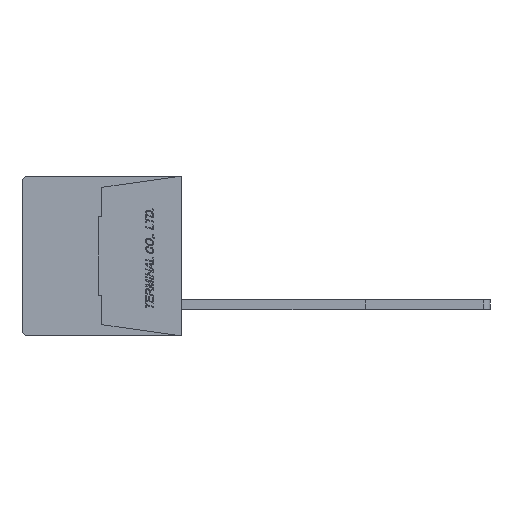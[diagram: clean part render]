
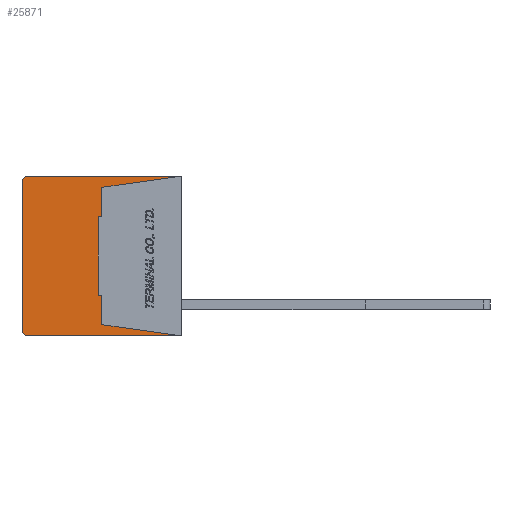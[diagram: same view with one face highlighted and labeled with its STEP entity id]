
A CAD part, left-side view. The second image highlights one B-rep face of the part: STEP entity #25871.
In plain terms, the highlighted planar face has unit normal (-1, 0, 0).
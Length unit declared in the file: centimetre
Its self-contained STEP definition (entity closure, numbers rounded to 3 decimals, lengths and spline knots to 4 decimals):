
#1358=CIRCLE('',#44221,0.05);
#1359=CIRCLE('',#44224,0.05);
#2543=VERTEX_POINT('',#36621);
#2544=VERTEX_POINT('',#36623);
#2545=VERTEX_POINT('',#36627);
#2546=VERTEX_POINT('',#36631);
#2547=VERTEX_POINT('',#36635);
#2548=VERTEX_POINT('',#36639);
#2549=VERTEX_POINT('',#36642);
#2550=VERTEX_POINT('',#36644);
#2551=VERTEX_POINT('',#36646);
#2552=VERTEX_POINT('',#36648);
#2553=VERTEX_POINT('',#36650);
#2554=VERTEX_POINT('',#36652);
#5223=VECTOR('',#30047,1.);
#5227=VECTOR('',#30056,1.);
#5230=VECTOR('',#30064,1.);
#5231=VECTOR('',#30065,1.);
#5232=VECTOR('',#30066,1.);
#5233=VECTOR('',#30067,1.);
#5234=VECTOR('',#30068,1.);
#5235=VECTOR('',#30069,1.);
#5236=VECTOR('',#30070,1.);
#5237=VECTOR('',#30071,1.);
#8261=LINE('',#36622,#5223);
#8265=LINE('',#36632,#5227);
#8268=LINE('',#36640,#5230);
#8269=LINE('',#36641,#5231);
#8270=LINE('',#36643,#5232);
#8271=LINE('',#36645,#5233);
#8272=LINE('',#36647,#5234);
#8273=LINE('',#36649,#5235);
#8274=LINE('',#36651,#5236);
#8275=LINE('',#36653,#5237);
#11727=EDGE_CURVE('',#2544,#2543,#8261,.T.);
#11730=EDGE_CURVE('',#2545,#2543,#1358,.T.);
#11732=EDGE_CURVE('',#2545,#2546,#8265,.T.);
#11734=EDGE_CURVE('',#2547,#2546,#1359,.T.);
#11736=EDGE_CURVE('',#2547,#2548,#8268,.T.);
#11737=EDGE_CURVE('',#2549,#2544,#8269,.T.);
#11738=EDGE_CURVE('',#2548,#2550,#8270,.T.);
#11739=EDGE_CURVE('',#2550,#2551,#8271,.T.);
#11740=EDGE_CURVE('',#2551,#2552,#8272,.T.);
#11741=EDGE_CURVE('',#2552,#2553,#8273,.T.);
#11742=EDGE_CURVE('',#2553,#2554,#8274,.T.);
#11743=EDGE_CURVE('',#2554,#2549,#8275,.T.);
#17079=ORIENTED_EDGE('',*,*,#11737,.T.);
#17080=ORIENTED_EDGE('',*,*,#11727,.T.);
#17081=ORIENTED_EDGE('',*,*,#11730,.F.);
#17082=ORIENTED_EDGE('',*,*,#11732,.T.);
#17083=ORIENTED_EDGE('',*,*,#11734,.F.);
#17084=ORIENTED_EDGE('',*,*,#11736,.T.);
#17085=ORIENTED_EDGE('',*,*,#11738,.T.);
#17086=ORIENTED_EDGE('',*,*,#11739,.T.);
#17087=ORIENTED_EDGE('',*,*,#11740,.T.);
#17088=ORIENTED_EDGE('',*,*,#11741,.T.);
#17089=ORIENTED_EDGE('',*,*,#11742,.T.);
#17090=ORIENTED_EDGE('',*,*,#11743,.T.);
#22587=EDGE_LOOP('',(#17079,#17080,#17081,#17082,#17083,#17084,#17085,#17086,
#17087,#17088,#17089,#17090));
#24277=FACE_BOUND('',#22587,.T.);
#25871=ADVANCED_FACE('',(#24277),#27216,.F.);
#27216=PLANE('',#44218);
#29933=DIRECTION('',(1.,0.,0.));
#30047=DIRECTION('',(0.,1.,0.));
#30052=DIRECTION('',(1.,0.,0.));
#30053=DIRECTION('',(0.,0.,-0.05));
#30056=DIRECTION('',(0.,0.,-1.));
#30060=DIRECTION('',(1.,0.,0.));
#30061=DIRECTION('',(0.,0.,-0.05));
#30064=DIRECTION('',(0.,-1.,0.));
#30065=DIRECTION('',(0.,-0.99,0.139));
#30066=DIRECTION('',(0.,0.99,0.139));
#30067=DIRECTION('',(0.,0.,1.));
#30068=DIRECTION('',(0.,1.,0.));
#30069=DIRECTION('',(0.,0.,1.));
#30070=DIRECTION('',(0.,-1.,0.));
#30071=DIRECTION('',(0.,0.,1.));
#36188=CARTESIAN_POINT('',(-0.889,0.6345,0.));
#36621=CARTESIAN_POINT('',(-0.889,1.23,0.64));
#36622=CARTESIAN_POINT('',(-0.889,0.,0.64));
#36623=CARTESIAN_POINT('',(-0.889,0.,0.64));
#36627=CARTESIAN_POINT('',(-0.889,1.28,0.59));
#36628=CARTESIAN_POINT('',(-0.889,1.23,0.59));
#36631=CARTESIAN_POINT('',(-0.889,1.28,-0.59));
#36632=CARTESIAN_POINT('',(-0.889,1.28,0.59));
#36635=CARTESIAN_POINT('',(-0.889,1.23,-0.64));
#36636=CARTESIAN_POINT('',(-0.889,1.23,-0.59));
#36639=CARTESIAN_POINT('',(-0.889,0.,-0.64));
#36640=CARTESIAN_POINT('',(-0.889,1.23,-0.64));
#36641=CARTESIAN_POINT('',(-0.889,0.64,0.55));
#36642=CARTESIAN_POINT('',(-0.889,0.64,0.55));
#36643=CARTESIAN_POINT('',(-0.889,0.,-0.64));
#36644=CARTESIAN_POINT('',(-0.889,0.64,-0.55));
#36645=CARTESIAN_POINT('',(-0.889,0.64,-0.55));
#36646=CARTESIAN_POINT('',(-0.889,0.64,-0.315));
#36647=CARTESIAN_POINT('',(-0.889,0.64,-0.315));
#36648=CARTESIAN_POINT('',(-0.889,0.67,-0.315));
#36649=CARTESIAN_POINT('',(-0.889,0.67,-0.315));
#36650=CARTESIAN_POINT('',(-0.889,0.67,0.315));
#36651=CARTESIAN_POINT('',(-0.889,0.67,0.315));
#36652=CARTESIAN_POINT('',(-0.889,0.64,0.315));
#36653=CARTESIAN_POINT('',(-0.889,0.64,0.315));
#44218=AXIS2_PLACEMENT_3D('',#36188,#29933,$);
#44221=AXIS2_PLACEMENT_3D('',#36628,#30052,#30053);
#44224=AXIS2_PLACEMENT_3D('',#36636,#30060,#30061);
